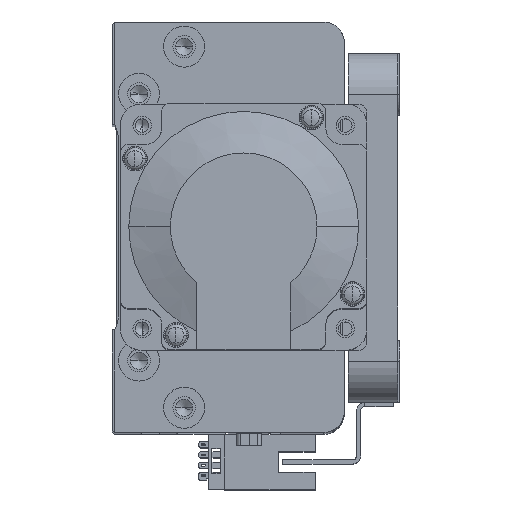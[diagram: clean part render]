
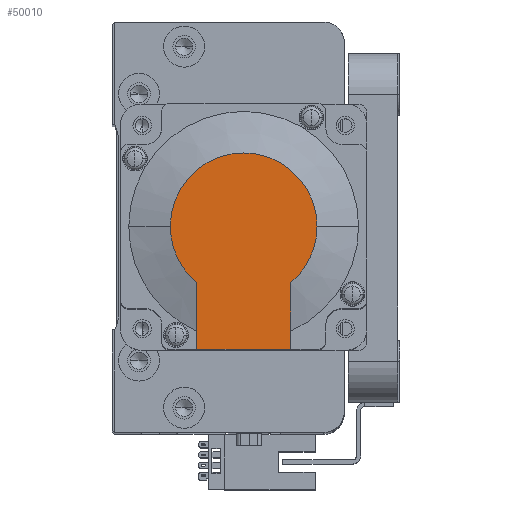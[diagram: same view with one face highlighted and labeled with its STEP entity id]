
A CAD part, top view. The second image highlights one B-rep face of the part: STEP entity #50010.
In plain terms, the highlighted planar face has unit normal (0, 0, 1) as drawn and (-1, 0, 0) by its records, which use the part's own axes.
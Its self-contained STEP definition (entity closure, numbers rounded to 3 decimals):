
#334 = FACE_OUTER_BOUND ( 'NONE', #17808, .T. ) ;
#3599 = CARTESIAN_POINT ( 'NONE',  ( -118.5, 30., -11.45 ) ) ;
#3814 = VECTOR ( 'NONE', #7079, 1000. ) ;
#3993 = EDGE_CURVE ( 'NONE', #23314, #24932, #50744, .T. ) ;
#4471 = ORIENTED_EDGE ( 'NONE', *, *, #3993, .F. ) ;
#4945 = EDGE_CURVE ( 'NONE', #9967, #39313, #26758, .T. ) ;
#7079 = DIRECTION ( 'NONE',  ( 0., -1., 0. ) ) ;
#7180 = ORIENTED_EDGE ( 'NONE', *, *, #27343, .T. ) ;
#8337 = CARTESIAN_POINT ( 'NONE',  ( -118.5, 0., 0. ) ) ;
#9852 = CARTESIAN_POINT ( 'NONE',  ( -118.5, 13.735, 11.45 ) ) ;
#9967 = VERTEX_POINT ( 'NONE', #41038 ) ;
#10306 = CARTESIAN_POINT ( 'NONE',  ( -118.5, 0., 0. ) ) ;
#11563 = CARTESIAN_POINT ( 'NONE',  ( -118.5, -8.941, -11.45 ) ) ;
#11640 = CARTESIAN_POINT ( 'NONE',  ( -118.5, -8.941, 0. ) ) ;
#11973 = VERTEX_POINT ( 'NONE', #9852 ) ;
#12272 = DIRECTION ( 'NONE',  ( 0., 0., -1. ) ) ;
#12465 = CARTESIAN_POINT ( 'NONE',  ( -118.5, 0., -17.881 ) ) ;
#13933 = CARTESIAN_POINT ( 'NONE',  ( -118.5, 0., 0. ) ) ;
#14198 = VECTOR ( 'NONE', #23598, 1000. ) ;
#14236 = DIRECTION ( 'NONE',  ( 0., 0., -1. ) ) ;
#14245 = LINE ( 'NONE', #30527, #3814 ) ;
#15419 = PLANE ( 'NONE',  #21585 ) ;
#15589 = DIRECTION ( 'NONE',  ( 0., 0., 1. ) ) ;
#17808 = EDGE_LOOP ( 'NONE', ( #7180, #43435, #26353, #18333, #41359, #4471 ) ) ;
#17895 = DIRECTION ( 'NONE',  ( 0., 0., -1. ) ) ;
#18333 = ORIENTED_EDGE ( 'NONE', *, *, #38251, .T. ) ;
#18816 = AXIS2_PLACEMENT_3D ( 'NONE', #8337, #35748, #12272 ) ;
#19457 = VERTEX_POINT ( 'NONE', #42187 ) ;
#19547 = VECTOR ( 'NONE', #50695, 1000. ) ;
#21585 = AXIS2_PLACEMENT_3D ( 'NONE', #11640, #39052, #15589 ) ;
#23314 = VERTEX_POINT ( 'NONE', #3599 ) ;
#23598 = DIRECTION ( 'NONE',  ( 0., -1., 0. ) ) ;
#24932 = VERTEX_POINT ( 'NONE', #46032 ) ;
#26353 = ORIENTED_EDGE ( 'NONE', *, *, #49154, .T. ) ;
#26758 = CIRCLE ( 'NONE', #36766, 17.881 ) ;
#27103 = CARTESIAN_POINT ( 'NONE',  ( -118.5, 30., 25. ) ) ;
#27343 = EDGE_CURVE ( 'NONE', #23314, #9967, #45438, .T. ) ;
#29531 = EDGE_CURVE ( 'NONE', #24932, #11973, #14245, .T. ) ;
#30527 = CARTESIAN_POINT ( 'NONE',  ( -118.5, 0., 11.45 ) ) ;
#33644 = CIRCLE ( 'NONE', #18816, 17.881 ) ;
#35748 = DIRECTION ( 'NONE',  ( -1., 0., 0. ) ) ;
#36764 = CIRCLE ( 'NONE', #43383, 17.881 ) ;
#36766 = AXIS2_PLACEMENT_3D ( 'NONE', #13933, #41307, #17895 ) ;
#37706 = DIRECTION ( 'NONE',  ( -1., 0., 0. ) ) ;
#38251 = EDGE_CURVE ( 'NONE', #19457, #11973, #33644, .T. ) ;
#39052 = DIRECTION ( 'NONE',  ( -1., 0., 0. ) ) ;
#39313 = VERTEX_POINT ( 'NONE', #12465 ) ;
#41038 = CARTESIAN_POINT ( 'NONE',  ( -118.5, 13.735, -11.45 ) ) ;
#41307 = DIRECTION ( 'NONE',  ( -1., 0., 0. ) ) ;
#41359 = ORIENTED_EDGE ( 'NONE', *, *, #29531, .F. ) ;
#42187 = CARTESIAN_POINT ( 'NONE',  ( -118.5, 0., 17.881 ) ) ;
#43383 = AXIS2_PLACEMENT_3D ( 'NONE', #10306, #37706, #14236 ) ;
#43435 = ORIENTED_EDGE ( 'NONE', *, *, #4945, .T. ) ;
#45438 = LINE ( 'NONE', #11563, #14198 ) ;
#46032 = CARTESIAN_POINT ( 'NONE',  ( -118.5, 30., 11.45 ) ) ;
#49154 = EDGE_CURVE ( 'NONE', #39313, #19457, #36764, .T. ) ;
#50010 = ADVANCED_FACE ( 'NONE', ( #334 ), #15419, .T. ) ;
#50695 = DIRECTION ( 'NONE',  ( 0., 0., 1. ) ) ;
#50744 = LINE ( 'NONE', #27103, #19547 ) ;
